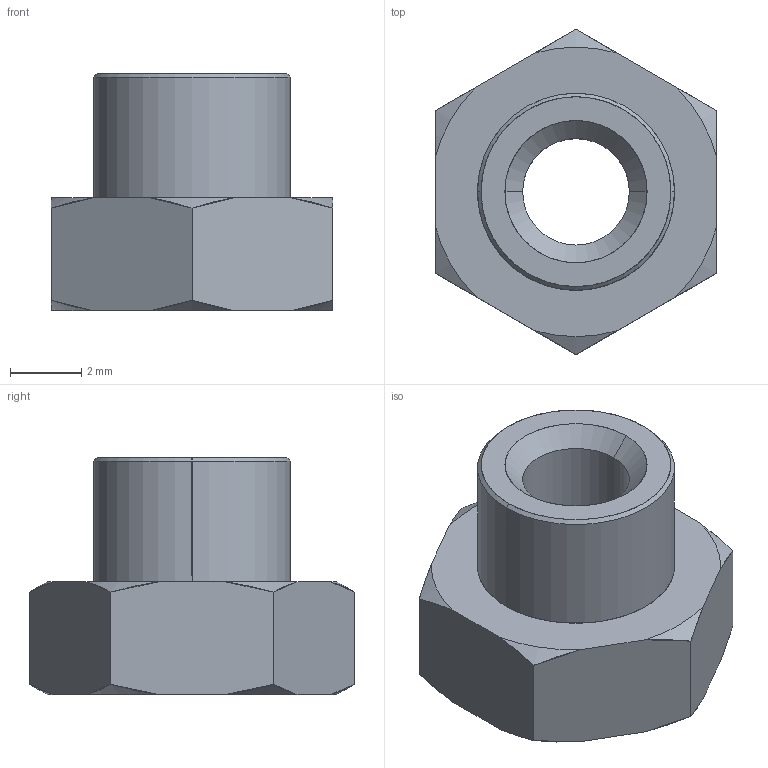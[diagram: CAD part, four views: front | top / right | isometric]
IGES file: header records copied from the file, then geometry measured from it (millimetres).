
Start section: SolidWorks IGES file using analytic representation for surfaces
Global section: file name: C:\Users\liam_\OneDrive\Desktop\Work\Mat Davis Pending 20181125\automotion\P SERIES\P0827.ZP_v2\P0827.ZP_v2_20181231_IGES\P0827.030-10G-ZP.igs; native system: SolidWorks 2017; preprocessor: SolidWorks 2017; author: liam_; date: 181231.110335; units: millimetre
Bounding box: 7.92 x 9.15 x 6.67 mm (x, y, z)
Surface area: 296.2 mm2 (no closed solid volume)
Topology: 0 solids, 0 shells, 31 faces, 336 edges, 336 vertices
Faces by surface type: revolution 22, bspline 9
